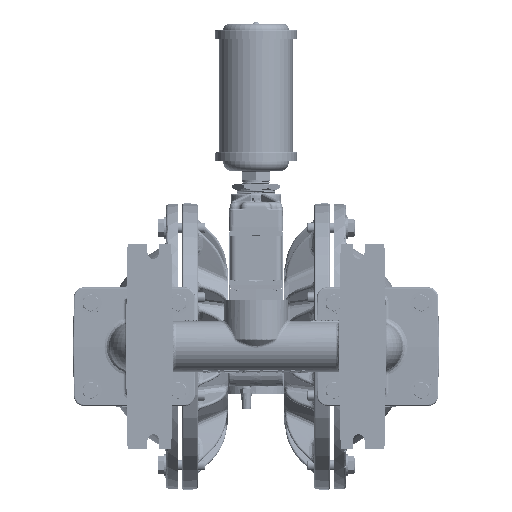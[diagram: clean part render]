
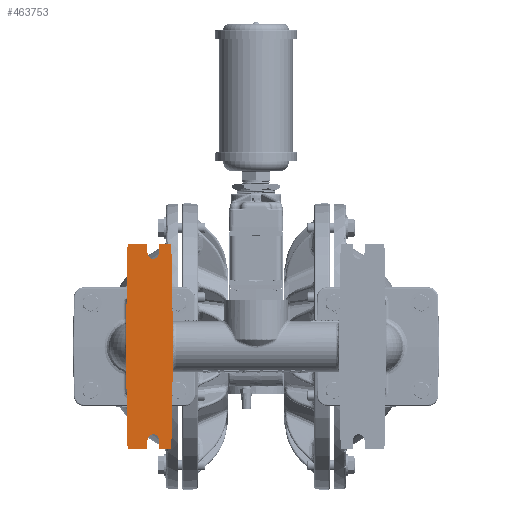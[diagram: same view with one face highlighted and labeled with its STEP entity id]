
A CAD part, front view. The second image highlights one B-rep face of the part: STEP entity #463753.
In plain terms, the highlighted planar face has unit normal (0, -1, 0).
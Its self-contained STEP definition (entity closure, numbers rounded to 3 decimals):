
#99982=DIRECTION('',(-0.017,0.,-1.));
#99983=VECTOR('',#99982,4.942);
#99984=CARTESIAN_POINT('',(-4.034,-12.94,0.));
#99985=LINE('',#99984,#99983);
#100088=DIRECTION('',(-1.,0.,0.));
#100089=VECTOR('',#100088,0.478);
#100090=CARTESIAN_POINT('',(-4.18,-12.94,5.));
#100091=LINE('',#100090,#100089);
#100104=CARTESIAN_POINT('',(-4.658,-12.94,4.94));
#100105=DIRECTION('',(0.,1.,0.));
#100106=DIRECTION('',(-1.,0.,0.009));
#100107=AXIS2_PLACEMENT_3D('',#100104,#100105,#100106);
#100114=DIRECTION('',(-0.009,0.,-1.));
#100115=VECTOR('',#100114,0.393);
#100116=CARTESIAN_POINT('',(-4.718,-12.94,4.941));
#100117=LINE('',#100116,#100115);
#100130=CARTESIAN_POINT('',(-5.001,-12.94,4.55));
#100131=DIRECTION('',(0.,-1.,0.));
#100132=DIRECTION('',(-1.,0.,-0.009));
#100133=AXIS2_PLACEMENT_3D('',#100130,#100131,#100132);
#100325=DIRECTION('',(-0.009,0.,1.));
#100326=VECTOR('',#100325,0.393);
#100327=CARTESIAN_POINT('',(-5.281,-12.94,4.548));
#100328=LINE('',#100327,#100326);
#100337=CARTESIAN_POINT('',(-5.344,-12.94,4.94));
#100338=DIRECTION('',(0.,1.,0.));
#100339=DIRECTION('',(0.,0.,1.));
#100340=AXIS2_PLACEMENT_3D('',#100337,#100338,#100339);
#100347=DIRECTION('',(-1.,0.,0.));
#100348=VECTOR('',#100347,0.848);
#100349=CARTESIAN_POINT('',(-5.344,-12.94,5.));
#100350=LINE('',#100349,#100348);
#100363=CARTESIAN_POINT('',(-6.192,-12.94,4.94));
#100364=DIRECTION('',(0.,-1.,0.));
#100365=DIRECTION('',(0.,0.,1.));
#100366=AXIS2_PLACEMENT_3D('',#100363,#100364,#100365);
#100373=DIRECTION('',(0.017,0.,1.));
#100374=VECTOR('',#100373,4.942);
#100375=CARTESIAN_POINT('',(-6.338,-12.94,0.));
#100376=LINE('',#100375,#100374);
#100658=DIRECTION('',(0.017,0.,-1.));
#100659=VECTOR('',#100658,4.942);
#100660=CARTESIAN_POINT('',(-6.338,-12.94,0.));
#100661=LINE('',#100660,#100659);
#100942=CARTESIAN_POINT('',(-6.192,-12.94,-4.94));
#100943=DIRECTION('',(0.,1.,0.));
#100944=DIRECTION('',(0.,0.,-1.));
#100945=AXIS2_PLACEMENT_3D('',#100942,#100943,#100944);
#100952=DIRECTION('',(1.,0.,0.));
#100953=VECTOR('',#100952,0.848);
#100954=CARTESIAN_POINT('',(-6.192,-12.94,-5.));
#100955=LINE('',#100954,#100953);
#100968=CARTESIAN_POINT('',(-5.344,-12.94,-4.94));
#100969=DIRECTION('',(0.,1.,0.));
#100970=DIRECTION('',(1.,0.,-0.009));
#100971=AXIS2_PLACEMENT_3D('',#100968,#100969,#100970);
#100978=DIRECTION('',(0.009,0.,1.));
#100979=VECTOR('',#100978,0.393);
#100980=CARTESIAN_POINT('',(-5.284,-12.94,-4.941));
#100981=LINE('',#100980,#100979);
#100994=CARTESIAN_POINT('',(-5.001,-12.94,-4.55));
#100995=DIRECTION('',(0.,-1.,0.));
#100996=DIRECTION('',(1.,0.,0.009));
#100997=AXIS2_PLACEMENT_3D('',#100994,#100995,#100996);
#101189=DIRECTION('',(0.009,0.,-1.));
#101190=VECTOR('',#101189,0.393);
#101191=CARTESIAN_POINT('',(-4.721,-12.94,-4.548));
#101192=LINE('',#101191,#101190);
#101201=CARTESIAN_POINT('',(-4.658,-12.94,-4.94));
#101202=DIRECTION('',(0.,1.,0.));
#101203=DIRECTION('',(0.,0.,-1.));
#101204=AXIS2_PLACEMENT_3D('',#101201,#101202,#101203);
#101211=DIRECTION('',(1.,0.,0.));
#101212=VECTOR('',#101211,0.478);
#101213=CARTESIAN_POINT('',(-4.658,-12.94,-5.));
#101214=LINE('',#101213,#101212);
#101227=CARTESIAN_POINT('',(-4.18,-12.94,-4.94));
#101228=DIRECTION('',(0.,-1.,0.));
#101229=DIRECTION('',(0.,0.,-1.));
#101230=AXIS2_PLACEMENT_3D('',#101227,#101228,#101229);
#127368=CARTESIAN_POINT('',(-4.18,-12.94,4.94));
#127369=DIRECTION('',(0.,1.,0.));
#127370=DIRECTION('',(0.,0.,1.));
#127371=AXIS2_PLACEMENT_3D('',#127368,#127369,#127370);
#127378=DIRECTION('',(-0.017,0.,1.));
#127379=VECTOR('',#127378,4.942);
#127380=CARTESIAN_POINT('',(-4.034,-12.94,0.));
#127381=LINE('',#127380,#127379);
#328516=CARTESIAN_POINT('',(-4.18,-12.94,5.));
#328517=CARTESIAN_POINT('',(-4.658,-12.94,5.));
#328518=VERTEX_POINT('',#328516);
#328519=VERTEX_POINT('',#328517);
#328520=CARTESIAN_POINT('',(-5.281,-12.94,4.548));
#328521=CARTESIAN_POINT('',(-4.721,-12.94,4.548));
#328522=VERTEX_POINT('',#328520);
#328523=VERTEX_POINT('',#328521);
#328524=CARTESIAN_POINT('',(-5.344,-12.94,5.));
#328525=CARTESIAN_POINT('',(-6.192,-12.94,5.));
#328526=VERTEX_POINT('',#328524);
#328527=VERTEX_POINT('',#328525);
#328528=CARTESIAN_POINT('',(-6.192,-12.94,-5.));
#328529=CARTESIAN_POINT('',(-5.344,-12.94,-5.));
#328530=VERTEX_POINT('',#328528);
#328531=VERTEX_POINT('',#328529);
#328532=CARTESIAN_POINT('',(-4.721,-12.94,-4.548));
#328533=CARTESIAN_POINT('',(-5.281,-12.94,-4.548));
#328534=VERTEX_POINT('',#328532);
#328535=VERTEX_POINT('',#328533);
#328536=CARTESIAN_POINT('',(-4.658,-12.94,-5.));
#328537=CARTESIAN_POINT('',(-4.18,-12.94,-5.));
#328538=VERTEX_POINT('',#328536);
#328539=VERTEX_POINT('',#328537);
#328540=CARTESIAN_POINT('',(-4.718,-12.94,4.941));
#328541=VERTEX_POINT('',#328540);
#328542=CARTESIAN_POINT('',(-5.284,-12.94,4.941));
#328543=VERTEX_POINT('',#328542);
#328544=CARTESIAN_POINT('',(-5.284,-12.94,-4.941));
#328545=VERTEX_POINT('',#328544);
#328546=CARTESIAN_POINT('',(-4.718,-12.94,-4.941));
#328547=VERTEX_POINT('',#328546);
#328548=CARTESIAN_POINT('',(-6.338,-12.94,0.));
#328549=CARTESIAN_POINT('',(-6.252,-12.94,4.941));
#328550=VERTEX_POINT('',#328548);
#328551=VERTEX_POINT('',#328549);
#328552=CARTESIAN_POINT('',(-4.034,-12.94,0.));
#328553=CARTESIAN_POINT('',(-4.12,-12.94,-4.941));
#328554=VERTEX_POINT('',#328552);
#328555=VERTEX_POINT('',#328553);
#328840=CARTESIAN_POINT('',(-6.252,-12.94,-4.941));
#328841=VERTEX_POINT('',#328840);
#328844=CARTESIAN_POINT('',(-4.12,-12.94,4.941));
#328845=VERTEX_POINT('',#328844);
#463703=CARTESIAN_POINT('',(6.549,-12.94,-6.));
#463704=DIRECTION('',(0.,1.,0.));
#463705=DIRECTION('',(-1.,0.,0.));
#463706=AXIS2_PLACEMENT_3D('',#463703,#463704,#463705);
#463707=PLANE('',#463706);
#463709=ORIENTED_EDGE('',*,*,#463708,.F.);
#463711=ORIENTED_EDGE('',*,*,#463710,.T.);
#463713=ORIENTED_EDGE('',*,*,#463712,.F.);
#463714=ORIENTED_EDGE('',*,*,#463690,.T.);
#463716=ORIENTED_EDGE('',*,*,#463715,.F.);
#463718=ORIENTED_EDGE('',*,*,#463717,.F.);
#463720=ORIENTED_EDGE('',*,*,#463719,.T.);
#463722=ORIENTED_EDGE('',*,*,#463721,.F.);
#463724=ORIENTED_EDGE('',*,*,#463723,.T.);
#463726=ORIENTED_EDGE('',*,*,#463725,.F.);
#463728=ORIENTED_EDGE('',*,*,#463727,.T.);
#463730=ORIENTED_EDGE('',*,*,#463729,.F.);
#463732=ORIENTED_EDGE('',*,*,#463731,.T.);
#463734=ORIENTED_EDGE('',*,*,#463733,.F.);
#463736=ORIENTED_EDGE('',*,*,#463735,.T.);
#463738=ORIENTED_EDGE('',*,*,#463737,.F.);
#463740=ORIENTED_EDGE('',*,*,#463739,.F.);
#463742=ORIENTED_EDGE('',*,*,#463741,.T.);
#463744=ORIENTED_EDGE('',*,*,#463743,.F.);
#463746=ORIENTED_EDGE('',*,*,#463745,.T.);
#463748=ORIENTED_EDGE('',*,*,#463747,.F.);
#463750=ORIENTED_EDGE('',*,*,#463749,.T.);
#463751=EDGE_LOOP('',(#463709,#463711,#463713,#463714,#463716,#463718,#463720,
#463722,#463724,#463726,#463728,#463730,#463732,#463734,#463736,#463738,#463740,
#463742,#463744,#463746,#463748,#463750));
#463752=FACE_OUTER_BOUND('',#463751,.F.);
#463753=ADVANCED_FACE('',(#463752),#463707,.F.);
#100108=CIRCLE('',#100107,0.06);
#100134=CIRCLE('',#100133,0.28);
#100341=CIRCLE('',#100340,0.06);
#100367=CIRCLE('',#100366,0.06);
#100946=CIRCLE('',#100945,0.06);
#100972=CIRCLE('',#100971,0.06);
#100998=CIRCLE('',#100997,0.28);
#101205=CIRCLE('',#101204,0.06);
#101231=CIRCLE('',#101230,0.06);
#127372=CIRCLE('',#127371,0.06);
#463690=EDGE_CURVE('',#328554,#328555,#99985,.T.);
#463708=EDGE_CURVE('',#328518,#328519,#100091,.T.);
#463710=EDGE_CURVE('',#328518,#328845,#127372,.T.);
#463712=EDGE_CURVE('',#328554,#328845,#127381,.T.);
#463715=EDGE_CURVE('',#328539,#328555,#101231,.T.);
#463717=EDGE_CURVE('',#328538,#328539,#101214,.T.);
#463719=EDGE_CURVE('',#328538,#328547,#101205,.T.);
#463721=EDGE_CURVE('',#328534,#328547,#101192,.T.);
#463723=EDGE_CURVE('',#328534,#328535,#100998,.T.);
#463725=EDGE_CURVE('',#328545,#328535,#100981,.T.);
#463727=EDGE_CURVE('',#328545,#328531,#100972,.T.);
#463729=EDGE_CURVE('',#328530,#328531,#100955,.T.);
#463731=EDGE_CURVE('',#328530,#328841,#100946,.T.);
#463733=EDGE_CURVE('',#328550,#328841,#100661,.T.);
#463735=EDGE_CURVE('',#328550,#328551,#100376,.T.);
#463737=EDGE_CURVE('',#328527,#328551,#100367,.T.);
#463739=EDGE_CURVE('',#328526,#328527,#100350,.T.);
#463741=EDGE_CURVE('',#328526,#328543,#100341,.T.);
#463743=EDGE_CURVE('',#328522,#328543,#100328,.T.);
#463745=EDGE_CURVE('',#328522,#328523,#100134,.T.);
#463747=EDGE_CURVE('',#328541,#328523,#100117,.T.);
#463749=EDGE_CURVE('',#328541,#328519,#100108,.T.);
